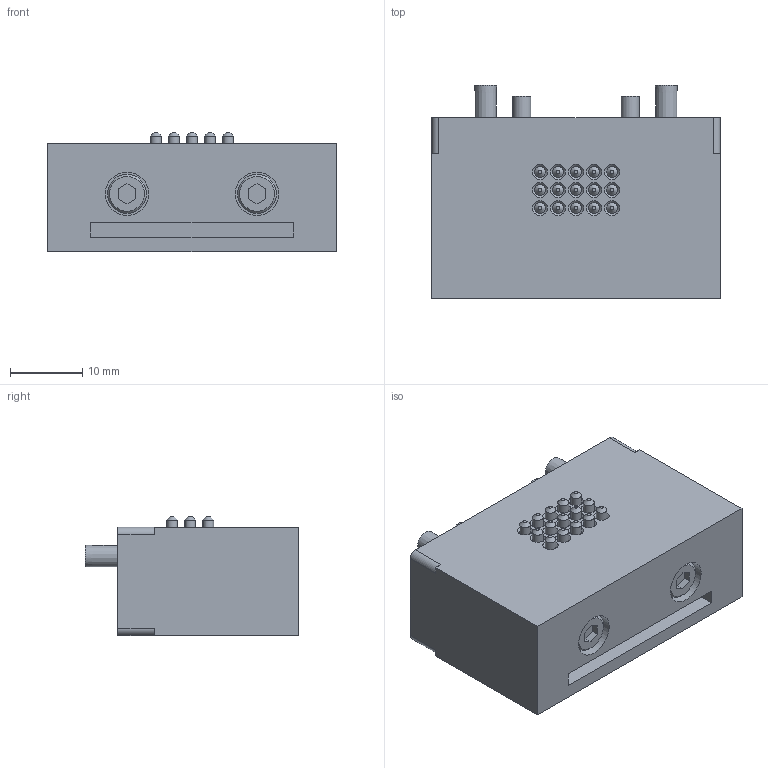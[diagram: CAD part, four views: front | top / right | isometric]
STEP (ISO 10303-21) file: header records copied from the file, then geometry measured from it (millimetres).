
FILE_DESCRIPTION(('STEP AP214'),'1');
FILE_NAME('KHB-7_25HS-D315_ver1.stp','2026-04-27T02:09:39',(' '),(' '),'Spatial InterOp 3D',' ',' ');
FILE_SCHEMA(('AUTOMOTIVE_DESIGN { 1 0 10303 214 1 1 1 1 }'));
Length unit declared in the file: millimetre
Products named in the file (3): KHB-7~25HS-D315_ver1; パーツ1
Assembly tree (2 placements, depth 2):
  KHB-7~25HS-D315_ver1
    パーツ1
    パーツ1
Bounding box: 40 x 29.5 x 16.5 mm (x, y, z)
Volume: 13700.1 mm3; surface area: 6988.1 mm2
Topology: 2 solids, 13 shells, 256 faces, 545 edges, 353 vertices
Faces by surface type: plane 158, cylinder 56, cone 42
Full cylindrical faces by diameter (mm): 1.5 x15, 2 x2, 2.25 x2, 2.5 x5, 3 x4, 3.3 x2, 3.5 x2, 5.41 x4, 5.5 x2, 5.8 x2, 6 x2
Entity records: 8338 total; most frequent: DIRECTION 1114, CARTESIAN_POINT 1027, ORIENTED_EDGE 876, EDGE_CURVE 438, AXIS2_PLACEMENT_3D 417, EDGE_LOOP 386, VERTEX_POINT 330, FACE_OUTER_BOUND 298
